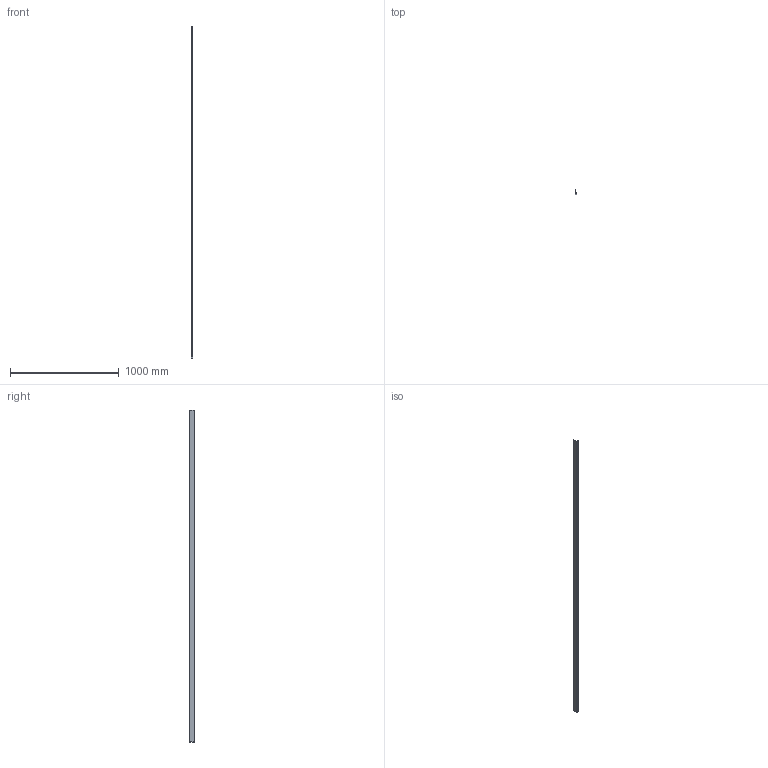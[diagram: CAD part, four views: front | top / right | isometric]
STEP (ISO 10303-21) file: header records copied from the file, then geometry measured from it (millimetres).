
FILE_DESCRIPTION (( 'STEP AP203' ), '1' );
FILE_NAME ('M01F.STEP', '2018-06-18T19:48:26', ( 'Michael Moliner' ), ( '' ), 'SwSTEP 2.0', 'SolidWorks 2018', '' );
FILE_SCHEMA (( 'CONFIG_CONTROL_DESIGN' ));
Length unit declared in the file: inch
Products named in the file (2): M01F
Bounding box: 15.47 x 41.27 x 3048 mm (x, y, z)
Volume: 119809.3 mm3; surface area: 474865.7 mm2
Topology: 1 solids, 1 shells, 18 faces, 48 edges, 32 vertices
Faces by surface type: plane 12, cylinder 6
Entity records: 721 total; most frequent: DIRECTION 100, CARTESIAN_POINT 100, ORIENTED_EDGE 96, EDGE_CURVE 48, VECTOR 36, LINE 36, AXIS2_PLACEMENT_3D 32, VERTEX_POINT 32
